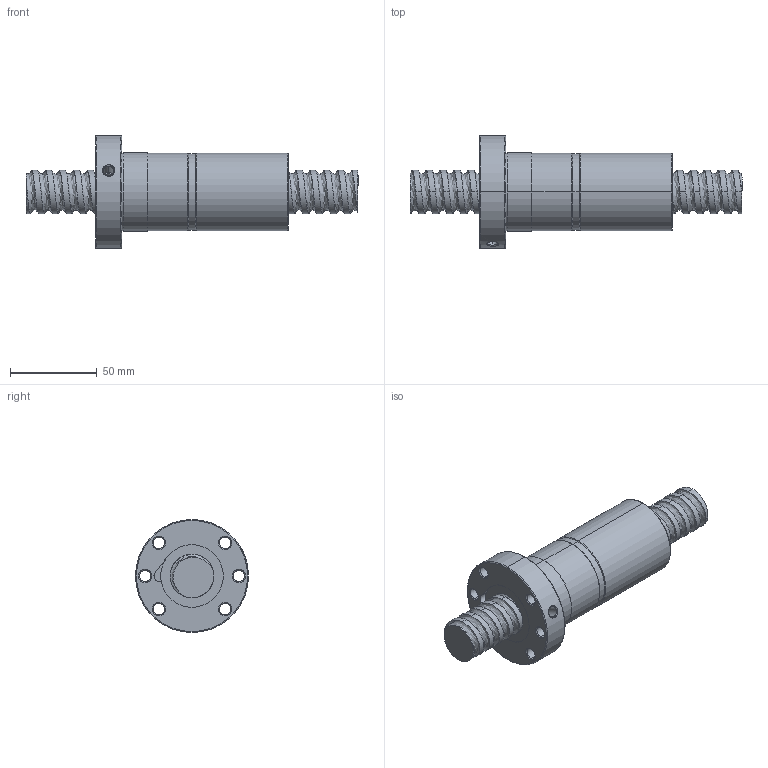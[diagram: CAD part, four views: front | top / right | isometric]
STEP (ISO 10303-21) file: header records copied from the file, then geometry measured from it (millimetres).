
FILE_DESCRIPTION (( 'STEP AP214' ), '1' );
FILE_NAME ('FDDC02508T4-D-A.STEP', '2010-07-06T02:51:33', ( 'XPAUTO' ), ( 'XPAUTO' ), 'SwSTEP 2.0', 'SolidWorks 2007', '' );
FILE_SCHEMA (( 'AUTOMOTIVE_DESIGN' ));
Length unit declared in the file: millimetre
Products named in the file (3): FDDC02508T4-D-A.sldasm-Part-2_預設; FDDC02508T4-D-A.sldasm-Part-1_預設; FDDC02508T4-D-A
Assembly tree (2 placements, depth 2):
  FDDC02508T4-D-A
    FDDC02508T4-D-A.sldasm-Part-1_預設
    FDDC02508T4-D-A.sldasm-Part-2_預設
Bounding box: 191 x 65 x 65 mm (x, y, z)
Volume: 224225.9 mm3; surface area: 51432.5 mm2
Topology: 2 solids, 2 shells, 146 faces, 368 edges, 231 vertices
Faces by surface type: cylinder 90, cone 24, plane 17, torus 10, bspline 5
Entity records: 31148 total; most frequent: CARTESIAN_POINT 27679, ORIENTED_EDGE 736, DIRECTION 668, EDGE_CURVE 368, AXIS2_PLACEMENT_3D 273, VERTEX_POINT 231, EDGE_LOOP 167, FACE_OUTER_BOUND 146
